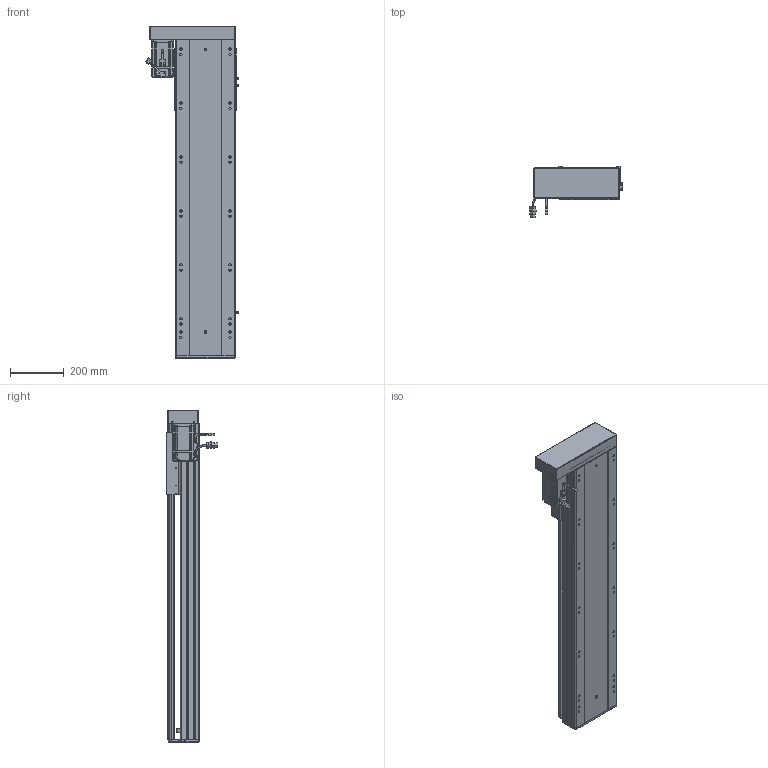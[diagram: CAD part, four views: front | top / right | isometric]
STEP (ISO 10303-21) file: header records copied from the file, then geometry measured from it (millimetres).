
FILE_DESCRIPTION (( 'STEP AP203' ), '1' );
FILE_NAME ('RY220-L2525-300-LK.SLDASM_850.step', '2022-07-04T01:46:50', ( '' ), ( '' ), 'SwSTEP 2.0', 'SolidWorks 2016', '' );
FILE_SCHEMA (( 'CONFIG_CONTROL_DESIGN' ));
Length unit declared in the file: millimetre
Products named in the file (12): RY220酘衵殏萇儂欶; RY220-俋离672覜茼んえ; RY220-L2525-300-LK.SLDASM_850; 滅袉蝶18-10; 覜茼ん672; RY220-300-蛌殏奻裔啣_850; RY220綴裔啣; RY220左右折电机安装板; 滅袉蝶18-15; RY220半封闭25-32螺母铝滑块; RY220蛌殏菁釱-300_850; 怢湛750W_ECMA-CX0807ES
Assembly tree (15 placements, depth 2):
  RY220-L2525-300-LK.SLDASM_850
    RY220蛌殏菁釱-300_850
    RY220-300-蛌殏奻裔啣_850
    怢湛750W_ECMA-CX0807ES
    滅袉蝶18-10  x2
    RY220-俋离672覜茼んえ
    覜茼ん672  x3
    RY220綴裔啣
    RY220半封闭25-32螺母铝滑块
    滅袉蝶18-15  x2
    RY220左右折电机安装板
    RY220酘衵殏萇儂欶
Bounding box: 347.44 x 189.27 x 1232 mm (x, y, z)
Volume: 10587499.2 mm3; surface area: 3061030.4 mm2
Topology: 16 solids, 16 shells, 2115 faces, 5840 edges, 3705 vertices
Faces by surface type: cylinder 947, plane 896, cone 202, bspline 44, sphere 16, torus 10
Entity records: 69981 total; most frequent: CARTESIAN_POINT 20435, ORIENTED_EDGE 10304, DIRECTION 9636, EDGE_CURVE 5152, AXIS2_PLACEMENT_3D 3373, VERTEX_POINT 3361, LINE 2890, VECTOR 2890
